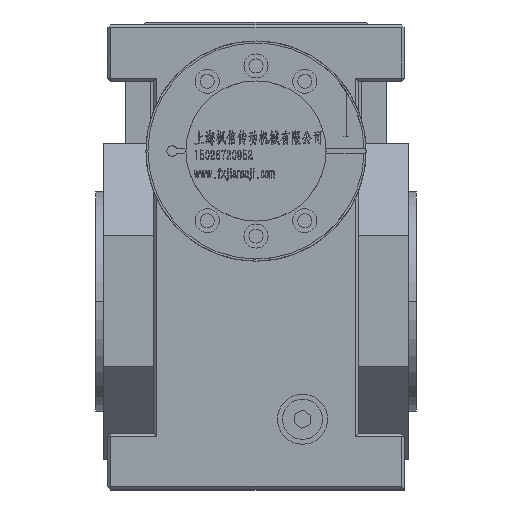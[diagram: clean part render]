
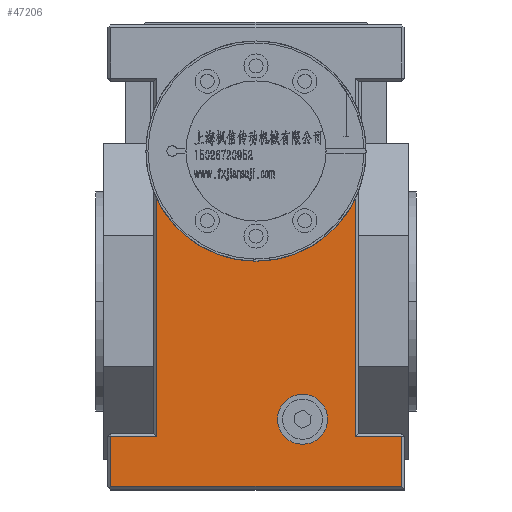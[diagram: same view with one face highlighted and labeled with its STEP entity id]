
A CAD part, top view. The second image highlights one B-rep face of the part: STEP entity #47206.
In plain terms, the highlighted planar face has unit normal (0, 0, 1).
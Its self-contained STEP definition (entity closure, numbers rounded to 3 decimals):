
#3320 = DIRECTION ( 'NONE',  ( 0., -1., 0. ) ) ;
#4546 = CARTESIAN_POINT ( 'NONE',  ( 10.762, -59., 104. ) ) ;
#4550 = DIRECTION ( 'NONE',  ( -1., 0., 0. ) ) ;
#4919 = EDGE_CURVE ( 'NONE', #104699, #12590, #72274, .T. ) ;
#7130 = ORIENTED_EDGE ( 'NONE', *, *, #35041, .T. ) ;
#8433 = AXIS2_PLACEMENT_3D ( 'NONE', #30096, #72428, #107871 ) ;
#11807 = CARTESIAN_POINT ( 'NONE',  ( 23.262, -59., 104. ) ) ;
#12590 = VERTEX_POINT ( 'NONE', #57307 ) ;
#13163 = PLANE ( 'NONE',  #47537 ) ;
#13248 = EDGE_CURVE ( 'NONE', #56400, #77842, #14854, .T. ) ;
#14467 = LINE ( 'NONE', #76768, #76361 ) ;
#14854 = CIRCLE ( 'NONE', #78778, 55. ) ;
#15118 = CARTESIAN_POINT ( 'NONE',  ( -72.5, 138., 104. ) ) ;
#16194 = ORIENTED_EDGE ( 'NONE', *, *, #29428, .T. ) ;
#17061 = CARTESIAN_POINT ( 'NONE',  ( 0., 75., 104. ) ) ;
#19467 = DIRECTION ( 'NONE',  ( 1., 0., 0. ) ) ;
#23052 = DIRECTION ( 'NONE',  ( 0., 1., 0. ) ) ;
#24565 = ORIENTED_EDGE ( 'NONE', *, *, #36375, .T. ) ;
#26959 = VECTOR ( 'NONE', #99683, 1000. ) ;
#27372 = VERTEX_POINT ( 'NONE', #104821 ) ;
#27509 = VERTEX_POINT ( 'NONE', #64766 ) ;
#29428 = EDGE_CURVE ( 'NONE', #27372, #83131, #97792, .T. ) ;
#30096 = CARTESIAN_POINT ( 'NONE',  ( 23.262, -59., 104. ) ) ;
#31956 = EDGE_CURVE ( 'NONE', #59859, #82781, #48608, .T. ) ;
#32420 = VECTOR ( 'NONE', #19467, 1000. ) ;
#33900 = CARTESIAN_POINT ( 'NONE',  ( 74., -67.5, 104. ) ) ;
#35041 = EDGE_CURVE ( 'NONE', #56400, #104699, #56550, .T. ) ;
#36050 = CARTESIAN_POINT ( 'NONE',  ( 74., -92.5, 104. ) ) ;
#36375 = EDGE_CURVE ( 'NONE', #88127, #27509, #67704, .T. ) ;
#36665 = DIRECTION ( 'NONE',  ( 0., 1., 0. ) ) ;
#38130 = EDGE_CURVE ( 'NONE', #83131, #88127, #14467, .T. ) ;
#39919 = ORIENTED_EDGE ( 'NONE', *, *, #31956, .F. ) ;
#40514 = LINE ( 'NONE', #110243, #71556 ) ;
#44459 = VECTOR ( 'NONE', #91757, 1000. ) ;
#47206 = ADVANCED_FACE ( 'NONE', ( #47497, #56079 ), #13163, .F. ) ;
#47497 = FACE_BOUND ( 'NONE', #76464, .T. ) ;
#47537 = AXIS2_PLACEMENT_3D ( 'NONE', #48054, #82914, #4550 ) ;
#48054 = CARTESIAN_POINT ( 'NONE',  ( 74., 138., 104. ) ) ;
#48608 = CIRCLE ( 'NONE', #8433, 12.5 ) ;
#51670 = ORIENTED_EDGE ( 'NONE', *, *, #73138, .T. ) ;
#51962 = DIRECTION ( 'NONE',  ( 0., 0., 1. ) ) ;
#52622 = VECTOR ( 'NONE', #3320, 1000. ) ;
#56079 = FACE_OUTER_BOUND ( 'NONE', #86232, .T. ) ;
#56400 = VERTEX_POINT ( 'NONE', #70323 ) ;
#56550 = LINE ( 'NONE', #62863, #52622 ) ;
#57307 = CARTESIAN_POINT ( 'NONE',  ( -72.5, -67.5, 104. ) ) ;
#58879 = ORIENTED_EDGE ( 'NONE', *, *, #13248, .F. ) ;
#59859 = VERTEX_POINT ( 'NONE', #4546 ) ;
#62863 = CARTESIAN_POINT ( 'NONE',  ( -49.5, -66., 104. ) ) ;
#63644 = VECTOR ( 'NONE', #101994, 1000. ) ;
#64766 = CARTESIAN_POINT ( 'NONE',  ( 49.5, -67.5, 104. ) ) ;
#64841 = CARTESIAN_POINT ( 'NONE',  ( -74., -67.5, 104. ) ) ;
#67704 = LINE ( 'NONE', #33900, #63644 ) ;
#68097 = CARTESIAN_POINT ( 'NONE',  ( 35.762, -59., 104. ) ) ;
#68154 = CARTESIAN_POINT ( 'NONE',  ( 72.5, -67.5, 104. ) ) ;
#70323 = CARTESIAN_POINT ( 'NONE',  ( -49.5, 51.026, 104. ) ) ;
#71200 = CARTESIAN_POINT ( 'NONE',  ( 72.5, -92.5, 104. ) ) ;
#71556 = VECTOR ( 'NONE', #36665, 1000. ) ;
#71908 = ORIENTED_EDGE ( 'NONE', *, *, #38130, .T. ) ;
#72274 = LINE ( 'NONE', #64841, #26959 ) ;
#72428 = DIRECTION ( 'NONE',  ( 0., 0., 1. ) ) ;
#73138 = EDGE_CURVE ( 'NONE', #12590, #27372, #83754, .T. ) ;
#76361 = VECTOR ( 'NONE', #23052, 1000. ) ;
#76464 = EDGE_LOOP ( 'NONE', ( #100265, #39919 ) ) ;
#76768 = CARTESIAN_POINT ( 'NONE',  ( 72.5, -66., 104. ) ) ;
#77842 = VERTEX_POINT ( 'NONE', #90885 ) ;
#78778 = AXIS2_PLACEMENT_3D ( 'NONE', #17061, #51962, #86822 ) ;
#81573 = DIRECTION ( 'NONE',  ( 0., 0., 1. ) ) ;
#81947 = ORIENTED_EDGE ( 'NONE', *, *, #4919, .T. ) ;
#82103 = CARTESIAN_POINT ( 'NONE',  ( -49.5, -67.5, 104. ) ) ;
#82781 = VERTEX_POINT ( 'NONE', #68097 ) ;
#82914 = DIRECTION ( 'NONE',  ( 0., 0., -1. ) ) ;
#83131 = VERTEX_POINT ( 'NONE', #71200 ) ;
#83754 = LINE ( 'NONE', #15118, #44459 ) ;
#84573 = ORIENTED_EDGE ( 'NONE', *, *, #104376, .T. ) ;
#86232 = EDGE_LOOP ( 'NONE', ( #16194, #71908, #24565, #84573, #58879, #7130, #81947, #51670 ) ) ;
#86822 = DIRECTION ( 'NONE',  ( 0., 1., 0. ) ) ;
#88127 = VERTEX_POINT ( 'NONE', #68154 ) ;
#90885 = CARTESIAN_POINT ( 'NONE',  ( 49.5, 51.026, 104. ) ) ;
#91757 = DIRECTION ( 'NONE',  ( 0., -1., 0. ) ) ;
#93233 = EDGE_CURVE ( 'NONE', #82781, #59859, #99195, .T. ) ;
#97053 = DIRECTION ( 'NONE',  ( 1., 0., 0. ) ) ;
#97792 = LINE ( 'NONE', #36050, #32420 ) ;
#99195 = CIRCLE ( 'NONE', #111940, 12.5 ) ;
#99683 = DIRECTION ( 'NONE',  ( -1., 0., 0. ) ) ;
#100265 = ORIENTED_EDGE ( 'NONE', *, *, #93233, .F. ) ;
#101994 = DIRECTION ( 'NONE',  ( -1., 0., 0. ) ) ;
#104376 = EDGE_CURVE ( 'NONE', #27509, #77842, #40514, .T. ) ;
#104699 = VERTEX_POINT ( 'NONE', #82103 ) ;
#104821 = CARTESIAN_POINT ( 'NONE',  ( -72.5, -92.5, 104. ) ) ;
#107871 = DIRECTION ( 'NONE',  ( 1., 0., 0. ) ) ;
#110243 = CARTESIAN_POINT ( 'NONE',  ( 49.5, 54.409, 104. ) ) ;
#111940 = AXIS2_PLACEMENT_3D ( 'NONE', #11807, #81573, #97053 ) ;
